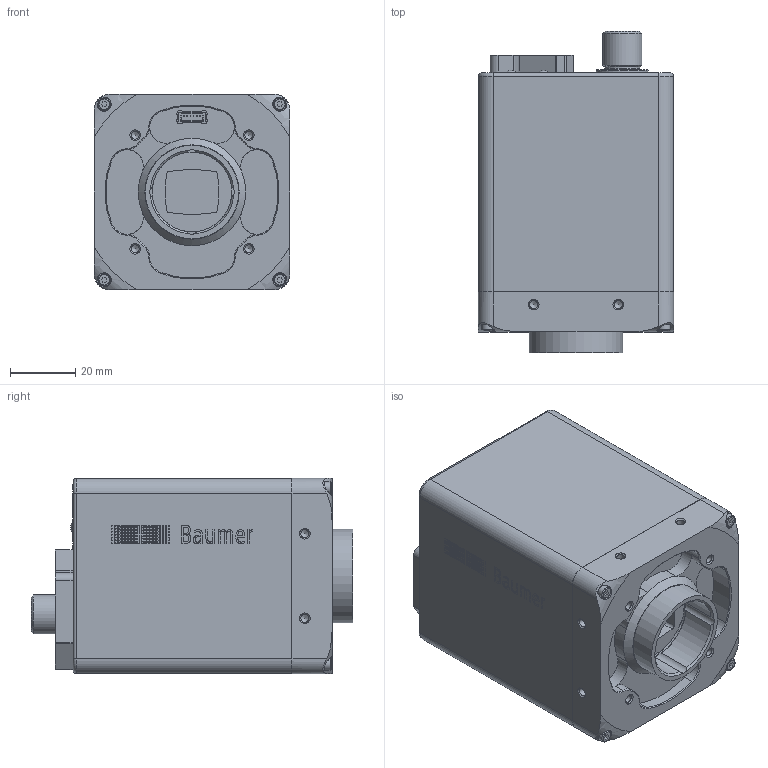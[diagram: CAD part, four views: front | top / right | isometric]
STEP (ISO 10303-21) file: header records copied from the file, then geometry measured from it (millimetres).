
FILE_DESCRIPTION( ( '11208326' ), '1' );
FILE_NAME( 'VLXT-123.FO', '190509', ( 'uge' ), ( 'Unknown' ), 'PSStep 19.0.9', 'Unknown', ' ' );
FILE_SCHEMA( ( 'AUTOMOTIVE_DESIGN { 1 0 10303 214 1 1 1 1 }' ) );
Length unit declared in the file: millimetre
Products named in the file (2): 1; 2
Bounding box: 60 x 98.88 x 60 mm (x, y, z)
Volume: 276234.1 mm3; surface area: 35648.5 mm2
Topology: 2 solids, 5 shells, 1655 faces, 4018 edges, 2647 vertices
Faces by surface type: plane 822, cylinder 670, cone 80, extrusion 52, torus 17, sphere 14
Full cylindrical faces by diameter (mm): 0.306 x20, 0.385 x20, 0.464 x20, 0.542 x20, 0.621 x20, 0.63 x12, 0.699 x20, 0.778 x20, 0.856 x20, 2 x4, 2.4 x4, 2.459 x30, 3.4 x2, 3.8 x4, 4.975 x2, 8 x2, 8.3 x1, 9.3 x2, 9.4 x2, 10.75 x1, 12 x1, 16 x1, 24.5 x1, 28.7 x1
Entity records: 62742 total; most frequent: CARTESIAN_POINT 11037, DIRECTION 8200, ORIENTED_EDGE 7268, EDGE_CURVE 3634, AXIS2_PLACEMENT_3D 3077, VERTEX_POINT 2580, EDGE_LOOP 2285, VECTOR 2046
